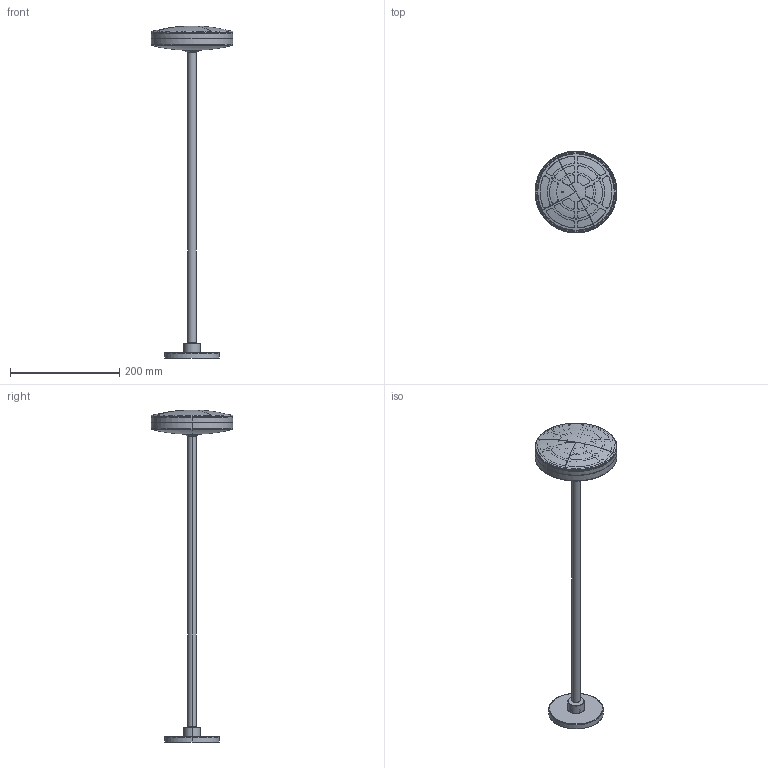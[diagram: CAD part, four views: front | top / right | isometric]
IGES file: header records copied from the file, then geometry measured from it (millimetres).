
Start section: SolidWorks IGES file using analytic representation for surfaces
Global section: file name: \\srvficheros\grupos\DISENYO\DESARROLLO DE PRODUCTO\_3D_WEB\SHEDIR-H2076000GR\SHEDIR-H2076000GR.IGS; native system: SolidWorks 2025; preprocessor: SolidWorks 2025; author: d.pons; date: 260115.090417; units: millimetre
Bounding box: 150 x 149.97 x 607.8 mm (x, y, z)
Surface area: 188817.1 mm2 (no closed solid volume)
Topology: 0 solids, 0 shells, 580 faces, 6860 edges, 6860 vertices
Faces by surface type: revolution 467, bspline 113
